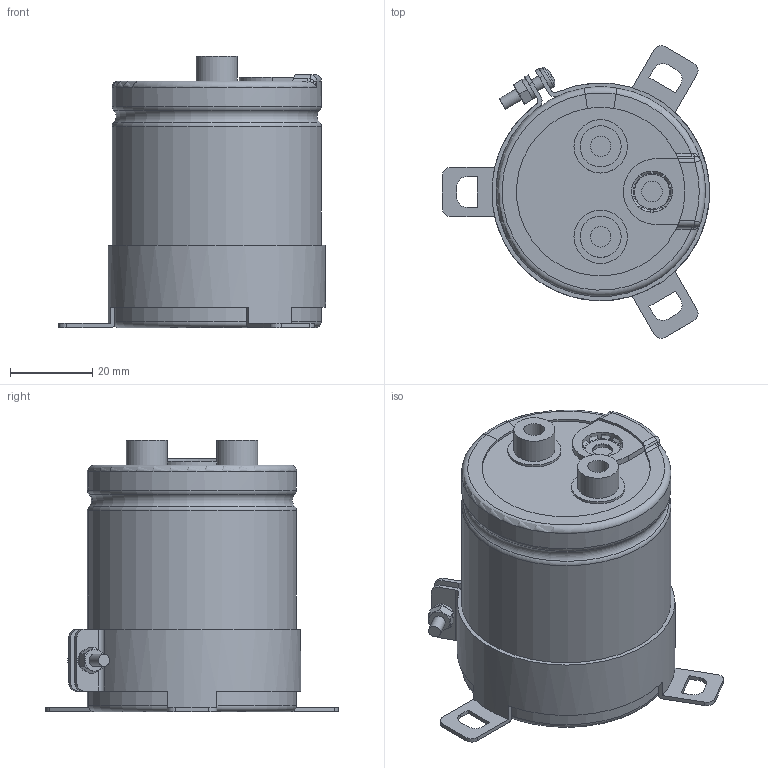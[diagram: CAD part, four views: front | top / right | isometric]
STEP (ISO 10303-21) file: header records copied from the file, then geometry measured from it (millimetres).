
FILE_DESCRIPTION(/* description */ (''),/* implementation_level */ '2;1');
FILE_NAME(/* name */ '51x60_Screw.stp',/* time_stamp */ '2017-09-15T13:35:50+09:00',/* author */ (''),/* organization */ (''),/* preprocessor_version */ 'ST-DEVELOPER v16',/* originating_system */ 'SIEMENS PLM Software NX 11.0',/* authorisation */ '');
FILE_SCHEMA (('AUTOMOTIVE_DESIGN { 1 0 10303 214 3 1 1 1 }'));
Length unit declared in the file: millimetre
Products named in the file (1): 51x60_Screw
Bounding box: 65 x 71.22 x 66 mm (x, y, z)
Volume: 124554.8 mm3; surface area: 43313.2 mm2
Topology: 9 solids, 9 shells, 298 faces, 744 edges, 471 vertices
Faces by surface type: plane 118, cylinder 78, torus 54, cone 31, bspline 12, sphere 5
Full cylindrical faces by diameter (mm): 3 x5, 5 x6, 5.5 x2, 10 x4, 13 x2, 49.8 x2
Entity records: 10562 total; most frequent: CARTESIAN_POINT 3129, DIRECTION 1450, ORIENTED_EDGE 1410, EDGE_CURVE 705, AXIS2_PLACEMENT_3D 606, VERTEX_POINT 464, EDGE_LOOP 353, CIRCLE 319
